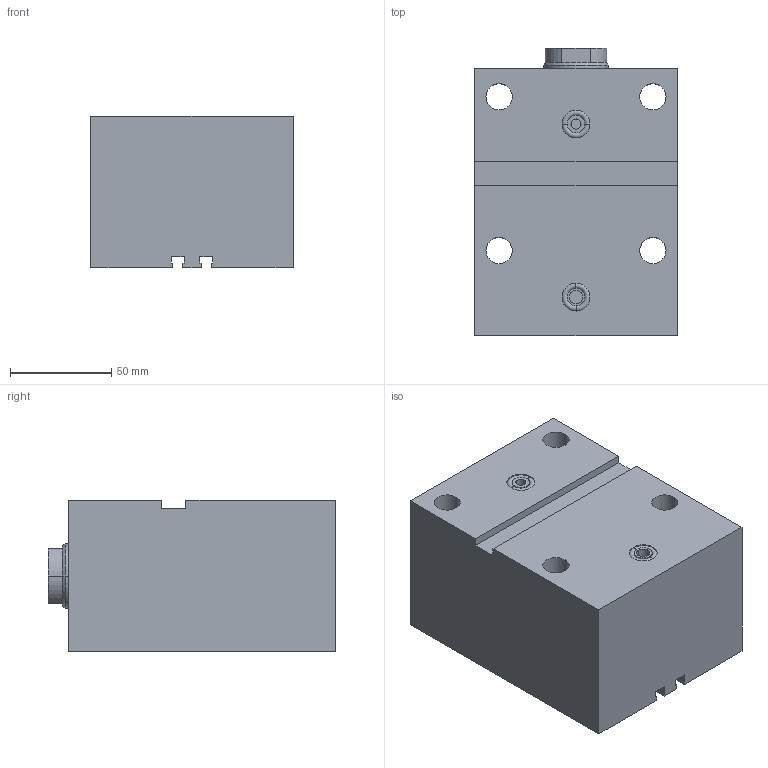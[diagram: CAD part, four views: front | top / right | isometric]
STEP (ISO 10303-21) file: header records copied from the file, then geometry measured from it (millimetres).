
FILE_DESCRIPTION (( 'STEP AP203' ), '1' );
FILE_NAME ('GERMA_Blockzylinder_703-050-050.STEP', '2016-07-23T13:28:32', ( '' ), ( '' ), 'SwSTEP 2.0', 'SolidWorks 2015', '' );
FILE_SCHEMA (( 'CONFIG_CONTROL_DESIGN' ));
Length unit declared in the file: millimetre
Products named in the file (3): GH-700-050_GH-703-050-050; Kolben_MT 70x-050_Kolben_MT DU.50-Hub50-IG; GERMA_Blockzylinder_703-050-050
Assembly tree (2 placements, depth 2):
  GERMA_Blockzylinder_703-050-050
    GH-700-050_GH-703-050-050
    Kolben_MT 70x-050_Kolben_MT DU.50-Hub50-IG
Bounding box: 100 x 142 x 75 mm (x, y, z)
Volume: 875375.6 mm3; surface area: 116491.7 mm2
Topology: 2 solids, 2 shells, 104 faces, 242 edges, 150 vertices
Faces by surface type: cylinder 43, plane 43, cone 14, torus 4
Entity records: 3246 total; most frequent: DIRECTION 555, CARTESIAN_POINT 495, ORIENTED_EDGE 472, EDGE_CURVE 236, AXIS2_PLACEMENT_3D 210, VERTEX_POINT 150, LINE 135, VECTOR 135
